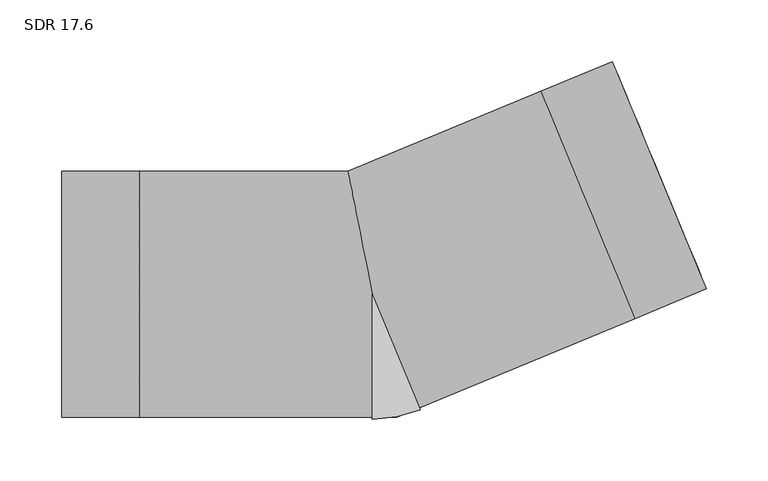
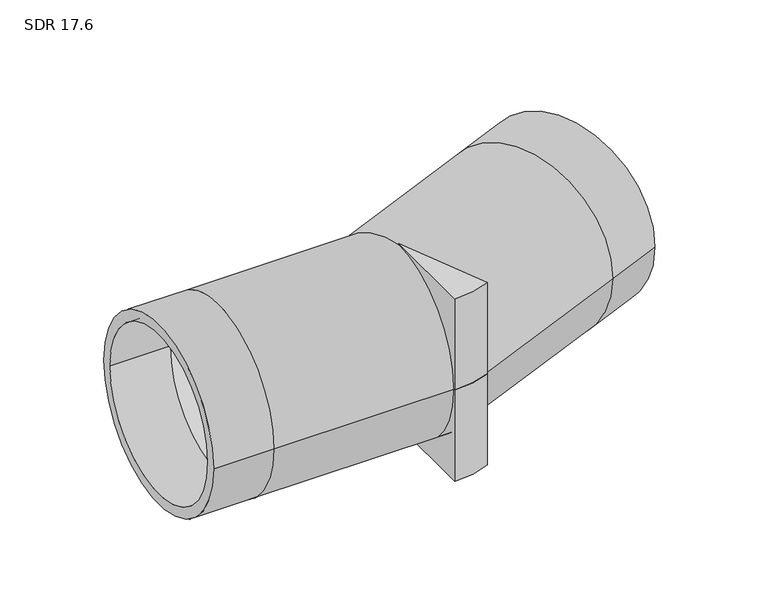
"""IFC4 building model written with IfcOpenShell, lengths in millimetres: pipe fitting geometry, Aquatherm - Elbow Blue BW Segmented : SDR 17.6."""

from ifc_helpers import new_model, si_unit, point, frame, origin, origin_with_axes, origin_2d, place, context, project, spatial, polyline, circle_curve, ellipse_curve, trimmed, segment, composite_curve, outline, extrude, source, transform, mapped, element, save
from ifc_brep_helpers import plane_surface, cylinder_surface, revolved_surface, advanced_brep


def sdr_17_6_2d4daa5a(model_context):
    return source(origin(), model_context, "Body", "SolidModel", [
        extrude(outline(composite_curve([segment(polyline([(0.0, -101.6), (0.0, 0.0), (38.8806367, -93.8661605)]), True, "CONTINUOUS"), segment(trimmed(circle_curve(origin_2d(), 101.6), [point((38.8806367, -93.8661605))], [point((0.0, -101.6))], False, "CARTESIAN"), True, "CONTINUOUS")], self_intersect=False)), frame((0.0, 0.0, -101.6), z_axis=(0.0, 0.0, 1.0), x_axis=(1.0, 0.0, 0.0)), (0.0, 0.0, 1.0), 101.6),
        extrude(outline(composite_curve([segment(trimmed(circle_curve(origin_2d(), 101.6), [point((38.8806367, -93.8661605))], [point((0.0, -101.6))], False, "CARTESIAN"), True, "CONTINUOUS"), segment(polyline([(0.0, -101.6), (0.0, 0.0), (38.8806367, -93.8661605)]), True, "CONTINUOUS")], self_intersect=False)), origin_with_axes(), (0.0, 0.0, 1.0), 101.6),
        advanced_brep(
        [(-252.476, -99.949, 0.0), (-252.476, 99.949, 0.0), (-252.476, -88.5921673, 0.0), (-252.476, 88.5921673, 0.0), (271.5062352, 4.2775469, 0.0), (195.0085825, 188.9592177, 0.0), (267.1601635, 14.7698921, 0.0), (199.3546542, 178.4668724, 0.0), (-189.357, -99.949, 0.0), (-189.357, 99.949, 0.0), (-189.357, -88.5921673, 0.0), (-189.357, 88.5921673, 0.0), (19.8810922, -99.949, 0.0), (-19.8810922, 99.949, 0.0), (17.6220777, -88.5921673, 0.0), (-17.6220777, 88.5921673, 0.0), (213.191883, -19.8770487, 0.0), (136.6942303, 164.8046221, 0.0), (208.8458113, -9.3847034, 0.0), (141.040302, 154.3122768, 0.0)],
        [
            (0, 1, circle_curve(frame((-252.476, 0.0, 0.0), z_axis=(-1.0, 0.0, 0.0), x_axis=(0.0, 1.0, 0.0)), 99.949)),
            (1, 0, circle_curve(frame((-252.476, 0.0, 0.0), z_axis=(-1.0, 0.0, 0.0), x_axis=(0.0, 1.0, 0.0)), 99.949)),
            (2, 3, circle_curve(frame((-252.476, 0.0, 0.0), z_axis=(1.0, 0.0, 0.0), x_axis=(0.0, 1.0, 0.0)), 88.5921673)),
            (3, 2, circle_curve(frame((-252.476, 0.0, 0.0), z_axis=(1.0, 0.0, 0.0), x_axis=(0.0, 1.0, 0.0)), 88.5921673)),
            (4, 5, circle_curve(frame((233.2574089, 96.6183823, 0.0), z_axis=(0.923879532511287, 0.3826834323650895, 0.0), x_axis=(-0.3826834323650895, 0.923879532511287, 0.0)), 99.949)),
            (5, 4, circle_curve(frame((233.2574089, 96.6183823, 0.0), z_axis=(0.923879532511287, 0.3826834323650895, 0.0), x_axis=(-0.3826834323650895, 0.923879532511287, 0.0)), 99.949)),
            (6, 7, circle_curve(frame((233.2574089, 96.6183823, 0.0), z_axis=(-0.923879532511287, -0.3826834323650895, 0.0), x_axis=(-0.3826834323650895, 0.923879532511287, 0.0)), 88.5921673)),
            (7, 6, circle_curve(frame((233.2574089, 96.6183823, 0.0), z_axis=(-0.923879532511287, -0.3826834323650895, 0.0), x_axis=(-0.3826834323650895, 0.923879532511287, 0.0)), 88.5921673)),
            (0, 8),
            (8, 9, circle_curve(frame((-189.357, 0.0, 0.0), z_axis=(-1.0, 0.0, 0.0), x_axis=(0.0, 1.0, 0.0)), 99.949)),
            (9, 1),
            (9, 8, circle_curve(frame((-189.357, 0.0, 0.0), z_axis=(-1.0, 0.0, 0.0), x_axis=(0.0, 1.0, 0.0)), 99.949)),
            (2, 10),
            (10, 11, circle_curve(frame((-189.357, 0.0, 0.0), z_axis=(1.0, 0.0, 0.0), x_axis=(0.0, 1.0, 0.0)), 88.5921673)),
            (11, 3),
            (11, 10, circle_curve(frame((-189.357, 0.0, 0.0), z_axis=(1.0, 0.0, 0.0), x_axis=(0.0, 1.0, 0.0)), 88.5921673)),
            (8, 12),
            (12, 13, ellipse_curve(frame((0.0, 0.0, 0.0), z_axis=(-0.9807852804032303, -0.19509032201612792, 0.0), x_axis=(-0.19509032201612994, 0.9807852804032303, 0.0)), 101.9071167, 99.949)),
            (13, 9),
            (13, 12, ellipse_curve(frame((0.0, 0.0, 0.0), z_axis=(-0.9807852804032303, -0.19509032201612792, 0.0), x_axis=(-0.19509032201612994, 0.9807852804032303, 0.0)), 101.9071167, 99.949)),
            (10, 14),
            (14, 15, ellipse_curve(frame((0.0, 0.0, 0.0), z_axis=(0.9807852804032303, 0.19509032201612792, 0.0), x_axis=(0.19509032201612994, -0.9807852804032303, 0.0)), 90.3277905, 88.5921673)),
            (15, 11),
            (15, 14, ellipse_curve(frame((0.0, 0.0, 0.0), z_axis=(0.9807852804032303, 0.19509032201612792, 0.0), x_axis=(0.19509032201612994, -0.9807852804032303, 0.0)), 90.3277905, 88.5921673)),
            (12, 16),
            (16, 17, circle_curve(frame((174.9430566, 72.4637867, 0.0), z_axis=(-0.9238795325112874, -0.3826834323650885, 0.0), x_axis=(-0.3826834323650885, 0.9238795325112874, 0.0)), 99.949)),
            (17, 13),
            (17, 16, circle_curve(frame((174.9430566, 72.4637867, 0.0), z_axis=(-0.9238795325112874, -0.3826834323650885, 0.0), x_axis=(-0.3826834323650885, 0.9238795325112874, 0.0)), 99.949)),
            (14, 18),
            (18, 19, circle_curve(frame((174.9430566, 72.4637867, 0.0), z_axis=(0.9238795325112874, 0.3826834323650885, 0.0), x_axis=(-0.3826834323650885, 0.9238795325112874, 0.0)), 88.5921673)),
            (19, 15),
            (19, 18, circle_curve(frame((174.9430566, 72.4637867, 0.0), z_axis=(0.9238795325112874, 0.3826834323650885, 0.0), x_axis=(-0.3826834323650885, 0.9238795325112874, 0.0)), 88.5921673)),
            (16, 4),
            (5, 17),
            (18, 6),
            (7, 19),
        ],
        [
            plane_surface(frame((-252.476, 0.0, 0.0), z_axis=(-1.0, 0.0, 0.0), x_axis=(0.0, 0.0, 1.0))),
            plane_surface(frame((233.2574089, 96.6183823, 0.0), z_axis=(0.923879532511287, 0.3826834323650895, 0.0), x_axis=(0.0, 0.0, 1.0))),
            cylinder_surface(frame((-252.476, 0.0, 0.0), z_axis=(-1.0, 0.0, 0.0), x_axis=(0.0, 1.0, 0.0)), 99.949),
            revolved_surface(polyline([(-189.357, 88.5921673, 0.0), (-252.476, 88.5921673, 0.0)]), (-252.476, 0.0, 0.0), (1.0, 0.0, 0.0)),
            cylinder_surface(frame((-189.357, 0.0, 0.0), z_axis=(-1.0, 0.0, 0.0), x_axis=(0.0, 1.0, 0.0)), 99.949),
            revolved_surface(polyline([(17.62207773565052, 88.5921673, 0.0), (-189.357, 88.5921673, 0.0)]), (-189.357, 0.0, 0.0), (1.0, 0.0, 0.0)),
            cylinder_surface(frame((0.0, 0.0, 0.0), z_axis=(-0.9238795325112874, -0.3826834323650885, 0.0), x_axis=(-0.3826834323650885, 0.9238795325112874, 0.0)), 99.949),
            revolved_surface(polyline([(141.04030199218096, 154.31227681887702, 0.0), (-50.18343162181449, 75.1048129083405, 0.0)]), (0.0, 0.0, 0.0), (0.9238795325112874, 0.3826834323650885, 0.0)),
            cylinder_surface(frame((174.9430566, 72.4637867, 0.0), z_axis=(-0.923879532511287, -0.3826834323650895, 0.0), x_axis=(-0.3826834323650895, 0.923879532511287, 0.0)), 99.949),
            revolved_surface(polyline([(199.35465423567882, 178.466872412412, 0.0), (141.0403019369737, 154.3122768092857, 0.0)]), (174.9430566, 72.4637867, 0.0), (0.923879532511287, 0.3826834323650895, 0.0)),
        ],
        [
            (0, [[1, 2], [3, 4]]),
            (1, [[5, 6], [7, 8]]),
            (2, [[-1, 9, 10, 11]]),
            (2, [[-2, -11, 12, -9]]),
            (3, [[-3, 13, 14, 15]]),
            (3, [[-4, -15, 16, -13]]),
            (4, [[-10, 17, 18, 19]]),
            (4, [[-12, -19, 20, -17]]),
            (5, [[-14, 21, 22, 23]]),
            (5, [[-16, -23, 24, -21]]),
            (6, [[-18, 25, 26, 27]]),
            (6, [[-20, -27, 28, -25]]),
            (7, [[-22, 29, 30, 31]]),
            (7, [[-24, -31, 32, -29]]),
            (8, [[-26, 33, -6, 34]]),
            (8, [[-28, -34, -5, -33]]),
            (9, [[-30, 35, -8, 36]]),
            (9, [[-32, -36, -7, -35]]),
        ],
    ),
    ])


if __name__ == "__main__":
    model = new_model("IFC4")
    model_context = context("Model", 3, world=origin())
    ifc_project = project(units=[si_unit("LENGTHUNIT", "METRE", prefix="MILLI")], contexts=[model_context])
    site = spatial("IfcSite", under=ifc_project)
    building = spatial("IfcBuilding", under=site)
    placement = place(None, origin())
    sdr_17_6_shape = sdr_17_6_2d4daa5a(model_context)
    element("IfcPipeFitting", 1, ObjectType="Aquatherm - Elbow Blue BW Segmented : SDR 17.6", at=placement, inside=building, context=model_context, shape_type="MappedRepresentation", body=[
        mapped(sdr_17_6_shape, transform((0.0, 0.0, 0.0), x_axis=(1.0, 0.0, 0.0), y_axis=(0.0, 1.0, 0.0), z_axis=(0.0, 0.0, 1.0))),
    ])
    save(model, "model.ifc")
